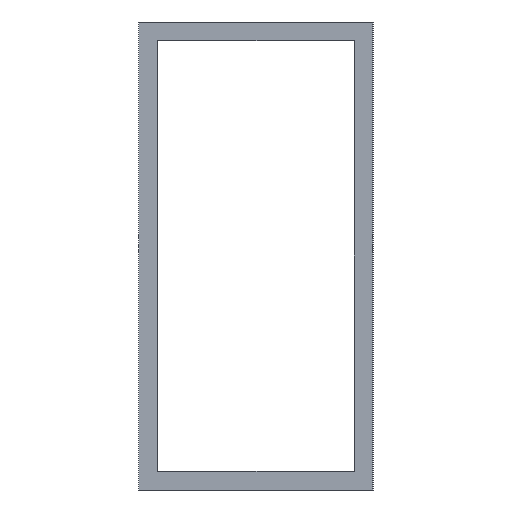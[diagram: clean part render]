
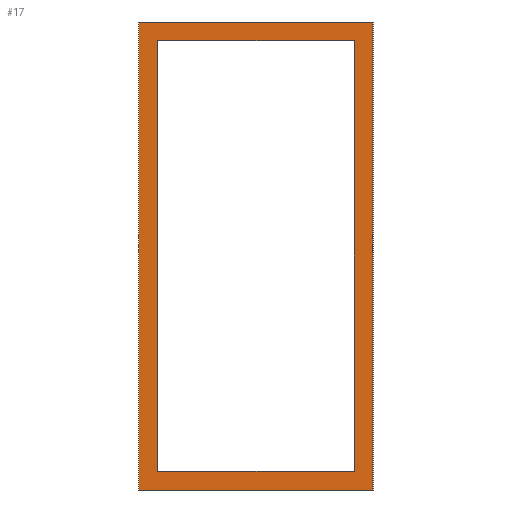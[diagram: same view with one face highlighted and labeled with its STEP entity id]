
A CAD part, left-side view. The second image highlights one B-rep face of the part: STEP entity #17.
In plain terms, the highlighted planar face has unit normal (-1, 0, 0).
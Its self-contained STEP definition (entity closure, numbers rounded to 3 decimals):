
#17 = ADVANCED_FACE('',(#18,#137),#32,.F.);
#18 = FACE_BOUND('',#19,.F.);
#19 = EDGE_LOOP('',(#20,#55,#83,#111));
#20 = ORIENTED_EDGE('',*,*,#21,.F.);
#21 = EDGE_CURVE('',#22,#24,#26,.T.);
#22 = VERTEX_POINT('',#23);
#23 = CARTESIAN_POINT('',(-1000.,680.,950.));
#24 = VERTEX_POINT('',#25);
#25 = CARTESIAN_POINT('',(-1000.,680.,1150.));
#26 = SURFACE_CURVE('',#27,(#31,#43),.PCURVE_S1.);
#27 = LINE('',#28,#29);
#28 = CARTESIAN_POINT('',(-1000.,680.,950.));
#29 = VECTOR('',#30,1.);
#30 = DIRECTION('',(0.,0.,1.));
#31 = PCURVE('',#32,#37);
#32 = PLANE('',#33);
#33 = AXIS2_PLACEMENT_3D('',#34,#35,#36);
#34 = CARTESIAN_POINT('',(-1000.,680.,950.));
#35 = DIRECTION('',(1.,0.,0.));
#36 = DIRECTION('',(0.,0.,1.));
#37 = DEFINITIONAL_REPRESENTATION('',(#38),#42);
#38 = LINE('',#39,#40);
#39 = CARTESIAN_POINT('',(0.,0.));
#40 = VECTOR('',#41,1.);
#41 = DIRECTION('',(1.,0.));
#42 = ( GEOMETRIC_REPRESENTATION_CONTEXT(2) 
PARAMETRIC_REPRESENTATION_CONTEXT() REPRESENTATION_CONTEXT('2D SPACE',''
  ) );
#43 = PCURVE('',#44,#49);
#44 = PLANE('',#45);
#45 = AXIS2_PLACEMENT_3D('',#46,#47,#48);
#46 = CARTESIAN_POINT('',(-1000.,680.,950.));
#47 = DIRECTION('',(0.,1.,0.));
#48 = DIRECTION('',(0.,0.,1.));
#49 = DEFINITIONAL_REPRESENTATION('',(#50),#54);
#50 = LINE('',#51,#52);
#51 = CARTESIAN_POINT('',(0.,0.));
#52 = VECTOR('',#53,1.);
#53 = DIRECTION('',(1.,0.));
#54 = ( GEOMETRIC_REPRESENTATION_CONTEXT(2) 
PARAMETRIC_REPRESENTATION_CONTEXT() REPRESENTATION_CONTEXT('2D SPACE',''
  ) );
#55 = ORIENTED_EDGE('',*,*,#56,.T.);
#56 = EDGE_CURVE('',#22,#57,#59,.T.);
#57 = VERTEX_POINT('',#58);
#58 = CARTESIAN_POINT('',(-1000.,780.,950.));
#59 = SURFACE_CURVE('',#60,(#64,#71),.PCURVE_S1.);
#60 = LINE('',#61,#62);
#61 = CARTESIAN_POINT('',(-1000.,680.,950.));
#62 = VECTOR('',#63,1.);
#63 = DIRECTION('',(0.,1.,0.));
#64 = PCURVE('',#32,#65);
#65 = DEFINITIONAL_REPRESENTATION('',(#66),#70);
#66 = LINE('',#67,#68);
#67 = CARTESIAN_POINT('',(0.,0.));
#68 = VECTOR('',#69,1.);
#69 = DIRECTION('',(0.,-1.));
#70 = ( GEOMETRIC_REPRESENTATION_CONTEXT(2) 
PARAMETRIC_REPRESENTATION_CONTEXT() REPRESENTATION_CONTEXT('2D SPACE',''
  ) );
#71 = PCURVE('',#72,#77);
#72 = PLANE('',#73);
#73 = AXIS2_PLACEMENT_3D('',#74,#75,#76);
#74 = CARTESIAN_POINT('',(-1000.,680.,950.));
#75 = DIRECTION('',(0.,0.,1.));
#76 = DIRECTION('',(1.,0.,0.));
#77 = DEFINITIONAL_REPRESENTATION('',(#78),#82);
#78 = LINE('',#79,#80);
#79 = CARTESIAN_POINT('',(0.,0.));
#80 = VECTOR('',#81,1.);
#81 = DIRECTION('',(0.,1.));
#82 = ( GEOMETRIC_REPRESENTATION_CONTEXT(2) 
PARAMETRIC_REPRESENTATION_CONTEXT() REPRESENTATION_CONTEXT('2D SPACE',''
  ) );
#83 = ORIENTED_EDGE('',*,*,#84,.T.);
#84 = EDGE_CURVE('',#57,#85,#87,.T.);
#85 = VERTEX_POINT('',#86);
#86 = CARTESIAN_POINT('',(-1000.,780.,1150.));
#87 = SURFACE_CURVE('',#88,(#92,#99),.PCURVE_S1.);
#88 = LINE('',#89,#90);
#89 = CARTESIAN_POINT('',(-1000.,780.,950.));
#90 = VECTOR('',#91,1.);
#91 = DIRECTION('',(0.,0.,1.));
#92 = PCURVE('',#32,#93);
#93 = DEFINITIONAL_REPRESENTATION('',(#94),#98);
#94 = LINE('',#95,#96);
#95 = CARTESIAN_POINT('',(0.,-100.));
#96 = VECTOR('',#97,1.);
#97 = DIRECTION('',(1.,0.));
#98 = ( GEOMETRIC_REPRESENTATION_CONTEXT(2) 
PARAMETRIC_REPRESENTATION_CONTEXT() REPRESENTATION_CONTEXT('2D SPACE',''
  ) );
#99 = PCURVE('',#100,#105);
#100 = PLANE('',#101);
#101 = AXIS2_PLACEMENT_3D('',#102,#103,#104);
#102 = CARTESIAN_POINT('',(-1000.,780.,950.));
#103 = DIRECTION('',(0.,1.,0.));
#104 = DIRECTION('',(0.,0.,1.));
#105 = DEFINITIONAL_REPRESENTATION('',(#106),#110);
#106 = LINE('',#107,#108);
#107 = CARTESIAN_POINT('',(0.,0.));
#108 = VECTOR('',#109,1.);
#109 = DIRECTION('',(1.,0.));
#110 = ( GEOMETRIC_REPRESENTATION_CONTEXT(2) 
PARAMETRIC_REPRESENTATION_CONTEXT() REPRESENTATION_CONTEXT('2D SPACE',''
  ) );
#111 = ORIENTED_EDGE('',*,*,#112,.F.);
#112 = EDGE_CURVE('',#24,#85,#113,.T.);
#113 = SURFACE_CURVE('',#114,(#118,#125),.PCURVE_S1.);
#114 = LINE('',#115,#116);
#115 = CARTESIAN_POINT('',(-1000.,680.,1150.));
#116 = VECTOR('',#117,1.);
#117 = DIRECTION('',(0.,1.,0.));
#118 = PCURVE('',#32,#119);
#119 = DEFINITIONAL_REPRESENTATION('',(#120),#124);
#120 = LINE('',#121,#122);
#121 = CARTESIAN_POINT('',(200.,0.));
#122 = VECTOR('',#123,1.);
#123 = DIRECTION('',(0.,-1.));
#124 = ( GEOMETRIC_REPRESENTATION_CONTEXT(2) 
PARAMETRIC_REPRESENTATION_CONTEXT() REPRESENTATION_CONTEXT('2D SPACE',''
  ) );
#125 = PCURVE('',#126,#131);
#126 = PLANE('',#127);
#127 = AXIS2_PLACEMENT_3D('',#128,#129,#130);
#128 = CARTESIAN_POINT('',(-1000.,680.,1150.));
#129 = DIRECTION('',(0.,0.,1.));
#130 = DIRECTION('',(1.,0.,0.));
#131 = DEFINITIONAL_REPRESENTATION('',(#132),#136);
#132 = LINE('',#133,#134);
#133 = CARTESIAN_POINT('',(0.,0.));
#134 = VECTOR('',#135,1.);
#135 = DIRECTION('',(0.,1.));
#136 = ( GEOMETRIC_REPRESENTATION_CONTEXT(2) 
PARAMETRIC_REPRESENTATION_CONTEXT() REPRESENTATION_CONTEXT('2D SPACE',''
  ) );
#137 = FACE_BOUND('',#138,.F.);
#138 = EDGE_LOOP('',(#139,#167,#193,#219));
#139 = ORIENTED_EDGE('',*,*,#140,.T.);
#140 = EDGE_CURVE('',#141,#143,#145,.T.);
#141 = VERTEX_POINT('',#142);
#142 = CARTESIAN_POINT('',(-1000.,772.,958.));
#143 = VERTEX_POINT('',#144);
#144 = CARTESIAN_POINT('',(-1000.,688.,958.));
#145 = SURFACE_CURVE('',#146,(#150,#156),.PCURVE_S1.);
#146 = LINE('',#147,#148);
#147 = CARTESIAN_POINT('',(-1000.,684.,958.));
#148 = VECTOR('',#149,1.);
#149 = DIRECTION('',(0.,-1.,0.));
#150 = PCURVE('',#32,#151);
#151 = DEFINITIONAL_REPRESENTATION('',(#152),#155);
#152 = B_SPLINE_CURVE_WITH_KNOTS('',1,(#153,#154),.UNSPECIFIED.,.F.,.F.,
  (2,2),(-88.,-4.),.PIECEWISE_BEZIER_KNOTS.);
#153 = CARTESIAN_POINT('',(8.,-92.));
#154 = CARTESIAN_POINT('',(8.,-8.));
#155 = ( GEOMETRIC_REPRESENTATION_CONTEXT(2) 
PARAMETRIC_REPRESENTATION_CONTEXT() REPRESENTATION_CONTEXT('2D SPACE',''
  ) );
#156 = PCURVE('',#157,#162);
#157 = PLANE('',#158);
#158 = AXIS2_PLACEMENT_3D('',#159,#160,#161);
#159 = CARTESIAN_POINT('',(-1001.,688.,958.));
#160 = DIRECTION('',(0.,0.,1.));
#161 = DIRECTION('',(1.,0.,0.));
#162 = DEFINITIONAL_REPRESENTATION('',(#163),#166);
#163 = B_SPLINE_CURVE_WITH_KNOTS('',1,(#164,#165),.UNSPECIFIED.,.F.,.F.,
  (2,2),(-88.,-4.),.PIECEWISE_BEZIER_KNOTS.);
#164 = CARTESIAN_POINT('',(1.,84.));
#165 = CARTESIAN_POINT('',(1.,0.));
#166 = ( GEOMETRIC_REPRESENTATION_CONTEXT(2) 
PARAMETRIC_REPRESENTATION_CONTEXT() REPRESENTATION_CONTEXT('2D SPACE',''
  ) );
#167 = ORIENTED_EDGE('',*,*,#168,.T.);
#168 = EDGE_CURVE('',#143,#169,#171,.T.);
#169 = VERTEX_POINT('',#170);
#170 = CARTESIAN_POINT('',(-1000.,688.,1142.));
#171 = SURFACE_CURVE('',#172,(#176,#182),.PCURVE_S1.);
#172 = LINE('',#173,#174);
#173 = CARTESIAN_POINT('',(-1000.,688.,954.));
#174 = VECTOR('',#175,1.);
#175 = DIRECTION('',(0.,0.,1.));
#176 = PCURVE('',#32,#177);
#177 = DEFINITIONAL_REPRESENTATION('',(#178),#181);
#178 = B_SPLINE_CURVE_WITH_KNOTS('',1,(#179,#180),.UNSPECIFIED.,.F.,.F.,
  (2,2),(4.,188.),.PIECEWISE_BEZIER_KNOTS.);
#179 = CARTESIAN_POINT('',(8.,-8.));
#180 = CARTESIAN_POINT('',(192.,-8.));
#181 = ( GEOMETRIC_REPRESENTATION_CONTEXT(2) 
PARAMETRIC_REPRESENTATION_CONTEXT() REPRESENTATION_CONTEXT('2D SPACE',''
  ) );
#182 = PCURVE('',#183,#188);
#183 = PLANE('',#184);
#184 = AXIS2_PLACEMENT_3D('',#185,#186,#187);
#185 = CARTESIAN_POINT('',(-1001.,688.,958.));
#186 = DIRECTION('',(0.,1.,0.));
#187 = DIRECTION('',(0.,0.,1.));
#188 = DEFINITIONAL_REPRESENTATION('',(#189),#192);
#189 = B_SPLINE_CURVE_WITH_KNOTS('',1,(#190,#191),.UNSPECIFIED.,.F.,.F.,
  (2,2),(4.,188.),.PIECEWISE_BEZIER_KNOTS.);
#190 = CARTESIAN_POINT('',(0.,1.));
#191 = CARTESIAN_POINT('',(184.,1.));
#192 = ( GEOMETRIC_REPRESENTATION_CONTEXT(2) 
PARAMETRIC_REPRESENTATION_CONTEXT() REPRESENTATION_CONTEXT('2D SPACE',''
  ) );
#193 = ORIENTED_EDGE('',*,*,#194,.F.);
#194 = EDGE_CURVE('',#195,#169,#197,.T.);
#195 = VERTEX_POINT('',#196);
#196 = CARTESIAN_POINT('',(-1000.,772.,1142.));
#197 = SURFACE_CURVE('',#198,(#202,#208),.PCURVE_S1.);
#198 = LINE('',#199,#200);
#199 = CARTESIAN_POINT('',(-1000.,684.,1142.));
#200 = VECTOR('',#201,1.);
#201 = DIRECTION('',(0.,-1.,0.));
#202 = PCURVE('',#32,#203);
#203 = DEFINITIONAL_REPRESENTATION('',(#204),#207);
#204 = B_SPLINE_CURVE_WITH_KNOTS('',1,(#205,#206),.UNSPECIFIED.,.F.,.F.,
  (2,2),(-88.,-4.),.PIECEWISE_BEZIER_KNOTS.);
#205 = CARTESIAN_POINT('',(192.,-92.));
#206 = CARTESIAN_POINT('',(192.,-8.));
#207 = ( GEOMETRIC_REPRESENTATION_CONTEXT(2) 
PARAMETRIC_REPRESENTATION_CONTEXT() REPRESENTATION_CONTEXT('2D SPACE',''
  ) );
#208 = PCURVE('',#209,#214);
#209 = PLANE('',#210);
#210 = AXIS2_PLACEMENT_3D('',#211,#212,#213);
#211 = CARTESIAN_POINT('',(-1001.,688.,1142.));
#212 = DIRECTION('',(0.,0.,1.));
#213 = DIRECTION('',(1.,0.,0.));
#214 = DEFINITIONAL_REPRESENTATION('',(#215),#218);
#215 = B_SPLINE_CURVE_WITH_KNOTS('',1,(#216,#217),.UNSPECIFIED.,.F.,.F.,
  (2,2),(-88.,-4.),.PIECEWISE_BEZIER_KNOTS.);
#216 = CARTESIAN_POINT('',(1.,84.));
#217 = CARTESIAN_POINT('',(1.,0.));
#218 = ( GEOMETRIC_REPRESENTATION_CONTEXT(2) 
PARAMETRIC_REPRESENTATION_CONTEXT() REPRESENTATION_CONTEXT('2D SPACE',''
  ) );
#219 = ORIENTED_EDGE('',*,*,#220,.F.);
#220 = EDGE_CURVE('',#141,#195,#221,.T.);
#221 = SURFACE_CURVE('',#222,(#226,#232),.PCURVE_S1.);
#222 = LINE('',#223,#224);
#223 = CARTESIAN_POINT('',(-1000.,772.,954.));
#224 = VECTOR('',#225,1.);
#225 = DIRECTION('',(0.,0.,1.));
#226 = PCURVE('',#32,#227);
#227 = DEFINITIONAL_REPRESENTATION('',(#228),#231);
#228 = B_SPLINE_CURVE_WITH_KNOTS('',1,(#229,#230),.UNSPECIFIED.,.F.,.F.,
  (2,2),(4.,188.),.PIECEWISE_BEZIER_KNOTS.);
#229 = CARTESIAN_POINT('',(8.,-92.));
#230 = CARTESIAN_POINT('',(192.,-92.));
#231 = ( GEOMETRIC_REPRESENTATION_CONTEXT(2) 
PARAMETRIC_REPRESENTATION_CONTEXT() REPRESENTATION_CONTEXT('2D SPACE',''
  ) );
#232 = PCURVE('',#233,#238);
#233 = PLANE('',#234);
#234 = AXIS2_PLACEMENT_3D('',#235,#236,#237);
#235 = CARTESIAN_POINT('',(-1001.,772.,958.));
#236 = DIRECTION('',(0.,1.,0.));
#237 = DIRECTION('',(0.,0.,1.));
#238 = DEFINITIONAL_REPRESENTATION('',(#239),#242);
#239 = B_SPLINE_CURVE_WITH_KNOTS('',1,(#240,#241),.UNSPECIFIED.,.F.,.F.,
  (2,2),(4.,188.),.PIECEWISE_BEZIER_KNOTS.);
#240 = CARTESIAN_POINT('',(0.,1.));
#241 = CARTESIAN_POINT('',(184.,1.));
#242 = ( GEOMETRIC_REPRESENTATION_CONTEXT(2) 
PARAMETRIC_REPRESENTATION_CONTEXT() REPRESENTATION_CONTEXT('2D SPACE',''
  ) );
